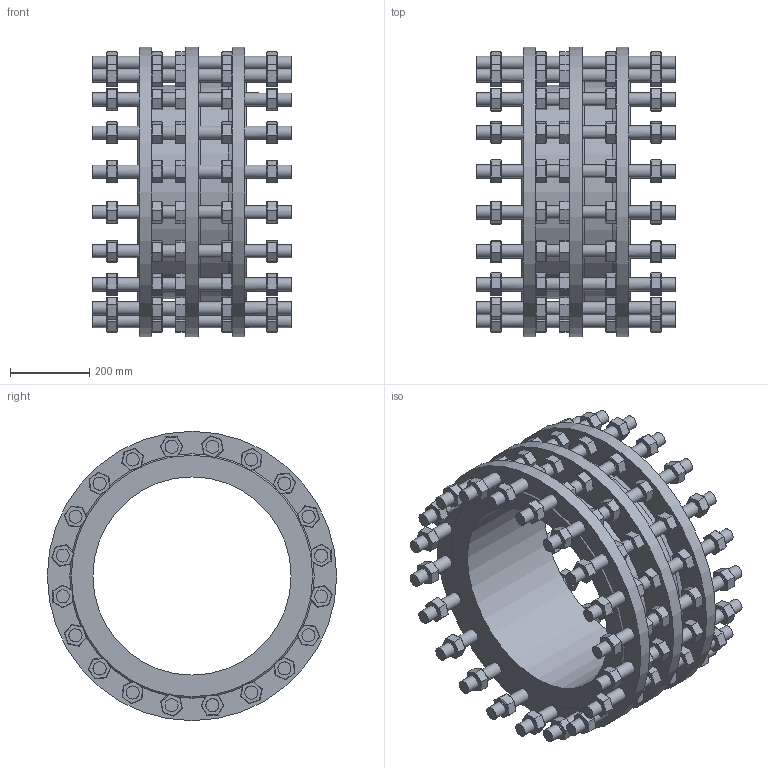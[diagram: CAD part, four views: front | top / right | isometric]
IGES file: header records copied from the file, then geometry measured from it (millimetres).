
Start section: SolidWorks IGES file using analytic representation for surfaces
Global section: file name: X:\AR\CV\873\873-0500-00-741000\873050000741000.IGS; native system: SolidWorks 2020; preprocessor: SolidWorks 2020; author: m.lucatello; date: 211105.105133; units: millimetre
Bounding box: 500 x 730 x 730 mm (x, y, z)
Surface area: 3847178 mm2 (no closed solid volume)
Topology: 0 solids, 0 shells, 2439 faces, 10026 edges, 9636 vertices
Faces by surface type: bspline 2049, revolution 390
